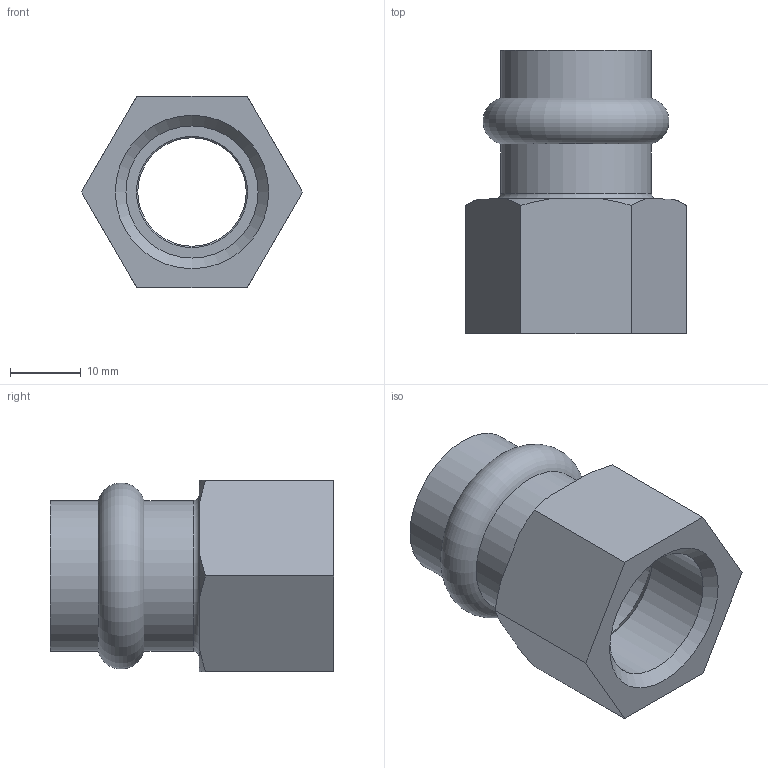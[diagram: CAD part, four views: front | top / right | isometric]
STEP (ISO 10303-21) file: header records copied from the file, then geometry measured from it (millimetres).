
FILE_DESCRIPTION(/* description */ (''),/* implementation_level */ '2;1');
FILE_NAME(/* name */ 'C:\Users\Vault\Desktop\Articoli_INOXPRES UNIKO\190_INOXPRES_UNIKO\190102018U_Inoxpres_Uniko.stp',/* time_stamp */ '2022-10-06T11:32:12+02:00',/* author */ ('Vault'),/* organization */ ('Raccorderie metalliche s.p.a. '),/* preprocessor_version */ 'ST-DEVELOPER v18.1',/* originating_system */ 'Autodesk Inventor 2020',/* authorisation */ 'Raccorderie metalliche s.p.a. ');
FILE_SCHEMA (('AUTOMOTIVE_DESIGN { 1 0 10303 214 3 1 1 }'));
Length unit declared in the file: millimetre
Products named in the file (1): 190102018V_Inoxpres_Uniko
Bounding box: 31.18 x 40 x 27 mm (x, y, z)
Volume: 9413.9 mm3; surface area: 6682.9 mm2
Topology: 1 solids, 1 shells, 34 faces, 90 edges, 61 vertices
Faces by surface type: cone 12, plane 11, cylinder 7, torus 4
Full cylindrical faces by diameter (mm): 15.3 x1, 18.3 x2, 18.64 x1, 21.3 x2, 21.5 x1
Entity records: 1118 total; most frequent: CARTESIAN_POINT 210, DIRECTION 195, ORIENTED_EDGE 180, EDGE_CURVE 90, AXIS2_PLACEMENT_3D 82, VERTEX_POINT 61, CIRCLE 47, EDGE_LOOP 39
